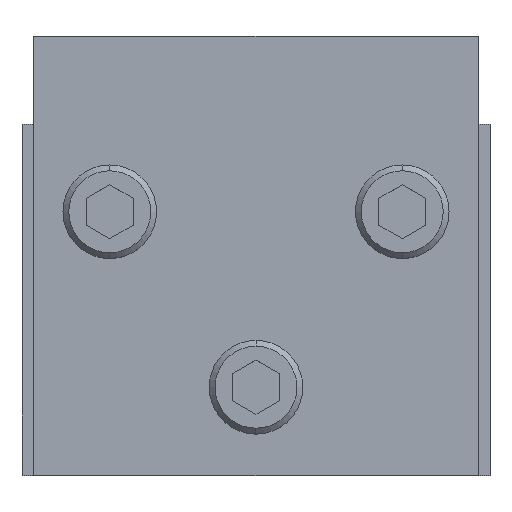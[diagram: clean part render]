
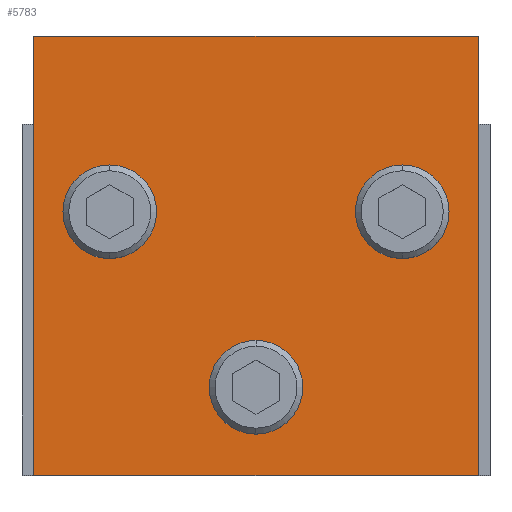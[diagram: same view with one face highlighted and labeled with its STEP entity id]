
A CAD part, top view. The second image highlights one B-rep face of the part: STEP entity #5783.
In plain terms, the highlighted planar face has unit normal (0, 0, 1).
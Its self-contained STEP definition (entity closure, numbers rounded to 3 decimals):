
#5558=VERTEX_POINT(' ',#5559);
#5559=CARTESIAN_POINT('',(38.,75.,60.));
#5560=VERTEX_POINT(' ',#5561);
#5561=CARTESIAN_POINT('',(-38.,75.,60.));
#5562=VERTEX_POINT(' ',#5563);
#5563=CARTESIAN_POINT('',(-38.,0.,60.));
#5564=VERTEX_POINT(' ',#5565);
#5565=CARTESIAN_POINT('',(38.,0.,60.));
#5566=VERTEX_POINT(' ',#5567);
#5567=CARTESIAN_POINT('',(0.,20.5,60.));
#5568=VERTEX_POINT(' ',#5569);
#5569=CARTESIAN_POINT('',(0.,9.5,60.));
#5570=VERTEX_POINT(' ',#5571);
#5571=CARTESIAN_POINT('',(-25.,50.5,60.));
#5572=VERTEX_POINT(' ',#5573);
#5573=CARTESIAN_POINT('',(-25.,39.5,60.));
#5574=VERTEX_POINT(' ',#5575);
#5575=CARTESIAN_POINT('',(25.,50.5,60.));
#5576=VERTEX_POINT(' ',#5577);
#5577=CARTESIAN_POINT('',(25.,39.5,60.));
#5598=LINE('',#5599,#5600);
#5599=CARTESIAN_POINT('',(38.,75.,60.));
#5600=VECTOR('',#5601,1.);
#5601=DIRECTION('',(-1.,0.,0.));
#5602=EDGE_CURVE(' ',#5558,#5560,#5598,.T.);
#5603=LINE('',#5604,#5605);
#5604=CARTESIAN_POINT('',(-38.,75.,60.));
#5605=VECTOR('',#5606,1.);
#5606=DIRECTION('',(0.,-1.,0.));
#5607=EDGE_CURVE(' ',#5560,#5562,#5603,.T.);
#5608=LINE('',#5609,#5610);
#5609=CARTESIAN_POINT('',(-38.,0.,60.));
#5610=VECTOR('',#5611,1.);
#5611=DIRECTION('',(1.,0.,0.));
#5612=EDGE_CURVE(' ',#5562,#5564,#5608,.T.);
#5613=LINE('',#5614,#5615);
#5614=CARTESIAN_POINT('',(38.,0.,60.));
#5615=VECTOR('',#5616,1.);
#5616=DIRECTION('',(0.,1.,0.));
#5617=EDGE_CURVE(' ',#5564,#5558,#5613,.T.);
#5618=CIRCLE('',#5619,5.5);
#5619=AXIS2_PLACEMENT_3D('',#5620,#5621,#5622);
#5620=CARTESIAN_POINT('',(0.,15.,60.));
#5621=DIRECTION('',(0.,0.,-1.));
#5622=DIRECTION('',(-1.,0.,0.));
#5623=EDGE_CURVE(' ',#5566,#5568,#5618,.T.);
#5624=CIRCLE('',#5625,5.5);
#5625=AXIS2_PLACEMENT_3D('',#5626,#5627,#5628);
#5626=CARTESIAN_POINT('',(0.,15.,60.));
#5627=DIRECTION('',(0.,0.,-1.));
#5628=DIRECTION('',(1.,0.,0.));
#5629=EDGE_CURVE(' ',#5568,#5566,#5624,.T.);
#5630=CIRCLE('',#5631,5.5);
#5631=AXIS2_PLACEMENT_3D('',#5632,#5633,#5634);
#5632=CARTESIAN_POINT('',(-25.,45.,60.));
#5633=DIRECTION('',(0.,0.,-1.));
#5634=DIRECTION('',(-1.,0.,0.));
#5635=EDGE_CURVE(' ',#5570,#5572,#5630,.T.);
#5636=CIRCLE('',#5637,5.5);
#5637=AXIS2_PLACEMENT_3D('',#5638,#5639,#5640);
#5638=CARTESIAN_POINT('',(-25.,45.,60.));
#5639=DIRECTION('',(0.,0.,-1.));
#5640=DIRECTION('',(1.,0.,0.));
#5641=EDGE_CURVE(' ',#5572,#5570,#5636,.T.);
#5642=CIRCLE('',#5643,5.5);
#5643=AXIS2_PLACEMENT_3D('',#5644,#5645,#5646);
#5644=CARTESIAN_POINT('',(25.,45.,60.));
#5645=DIRECTION('',(0.,0.,-1.));
#5646=DIRECTION('',(-1.,0.,0.));
#5647=EDGE_CURVE(' ',#5574,#5576,#5642,.T.);
#5648=CIRCLE('',#5649,5.5);
#5649=AXIS2_PLACEMENT_3D('',#5650,#5651,#5652);
#5650=CARTESIAN_POINT('',(25.,45.,60.));
#5651=DIRECTION('',(0.,0.,-1.));
#5652=DIRECTION('',(1.,0.,0.));
#5653=EDGE_CURVE(' ',#5576,#5574,#5648,.T.);
#5760=ORIENTED_EDGE('',*,*,#5602,.T.);
#5761=ORIENTED_EDGE('',*,*,#5607,.T.);
#5762=ORIENTED_EDGE('',*,*,#5612,.T.);
#5763=ORIENTED_EDGE('',*,*,#5617,.T.);
#5764=EDGE_LOOP('',(#5760,#5761,#5762,#5763));
#5765=FACE_OUTER_BOUND('',#5764,.T.);
#5766=ORIENTED_EDGE('',*,*,#5623,.T.);
#5767=ORIENTED_EDGE('',*,*,#5629,.T.);
#5768=EDGE_LOOP('',(#5766,#5767));
#5769=FACE_BOUND('',#5768,.T.);
#5770=ORIENTED_EDGE('',*,*,#5635,.T.);
#5771=ORIENTED_EDGE('',*,*,#5641,.T.);
#5772=EDGE_LOOP('',(#5770,#5771));
#5773=FACE_BOUND('',#5772,.T.);
#5774=ORIENTED_EDGE('',*,*,#5647,.T.);
#5775=ORIENTED_EDGE('',*,*,#5653,.T.);
#5776=EDGE_LOOP('',(#5774,#5775));
#5777=FACE_BOUND('',#5776,.T.);
#5778=PLANE('',#5779);
#5779=AXIS2_PLACEMENT_3D('',#5780,#5781,#5782);
#5780=CARTESIAN_POINT('',(38.,75.,60.));
#5781=DIRECTION('',(0.,0.,1.));
#5782=DIRECTION('',(1.,0.,0.));
#5783=ADVANCED_FACE('',(#5765,#5769,#5773,#5777),#5778,.T.);
